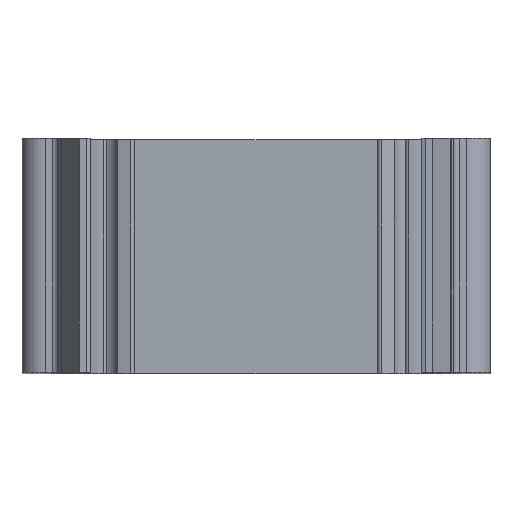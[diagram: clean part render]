
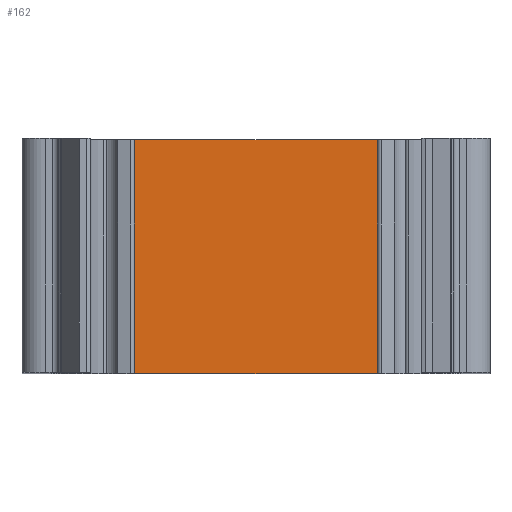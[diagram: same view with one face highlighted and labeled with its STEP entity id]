
A CAD part, top view. The second image highlights one B-rep face of the part: STEP entity #162.
In plain terms, the highlighted planar face has unit normal (0, 0, 1).
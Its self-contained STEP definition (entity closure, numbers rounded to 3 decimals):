
#162=ADVANCED_FACE('',(#364),#365,.T.);
#364=FACE_OUTER_BOUND('',#607,.T.);
#365=PLANE('',#608);
#607=EDGE_LOOP('',(#923,#924,#925,#926));
#608=AXIS2_PLACEMENT_3D('',#927,#928,#929);
#923=ORIENTED_EDGE('',*,*,#1594,.T.);
#924=ORIENTED_EDGE('',*,*,#1606,.T.);
#925=ORIENTED_EDGE('',*,*,#1607,.T.);
#926=ORIENTED_EDGE('',*,*,#1608,.F.);
#927=CARTESIAN_POINT('',(-8.75,10.0,-37.5));
#928=DIRECTION('',(0.0,0.0,1.0));
#929=DIRECTION('',(-1.0,0.0,-0.0));
#1594=EDGE_CURVE('',#1923,#1924,#1925,.T.);
#1606=EDGE_CURVE('',#1924,#1941,#1942,.T.);
#1607=EDGE_CURVE('',#1941,#1943,#1944,.T.);
#1608=EDGE_CURVE('',#1923,#1943,#1945,.T.);
#1923=VERTEX_POINT('',#2397);
#1924=VERTEX_POINT('',#2398);
#1925=LINE('',#2399,#2400);
#1941=VERTEX_POINT('',#2420);
#1942=LINE('',#2421,#2422);
#1943=VERTEX_POINT('',#2423);
#1944=LINE('',#2424,#2425);
#1945=LINE('',#2426,#2427);
#2397=CARTESIAN_POINT('',(-14.045,10.0,-37.5));
#2398=CARTESIAN_POINT('',(-14.045,-10.0,-37.5));
#2399=CARTESIAN_POINT('',(-14.045,-10.0,-37.5));
#2400=VECTOR('',#2958,1.0);
#2420=CARTESIAN_POINT('',(14.045,-10.0,-37.5));
#2421=CARTESIAN_POINT('',(-17.5,-10.0,-37.5));
#2422=VECTOR('',#2975,1.0);
#2423=CARTESIAN_POINT('',(14.045,10.0,-37.5));
#2424=CARTESIAN_POINT('',(14.045,10.0,-37.5));
#2425=VECTOR('',#2976,1.0);
#2426=CARTESIAN_POINT('',(-17.5,10.0,-37.5));
#2427=VECTOR('',#2977,1.0);
#2958=DIRECTION('',(-0.0,-1.0,-0.0));
#2975=DIRECTION('',(1.0,0.0,0.0));
#2976=DIRECTION('',(0.0,1.0,-0.0));
#2977=DIRECTION('',(1.0,0.0,0.0));
